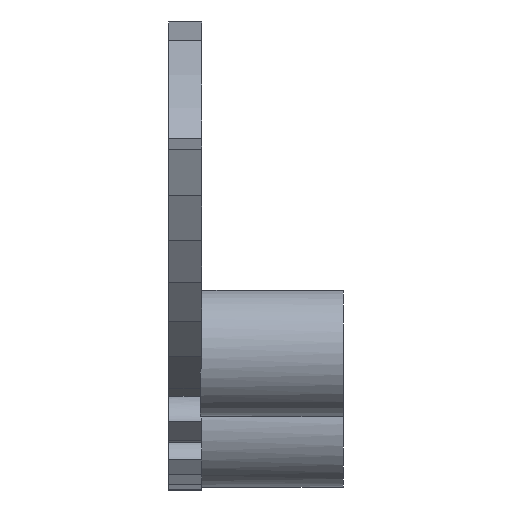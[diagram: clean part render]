
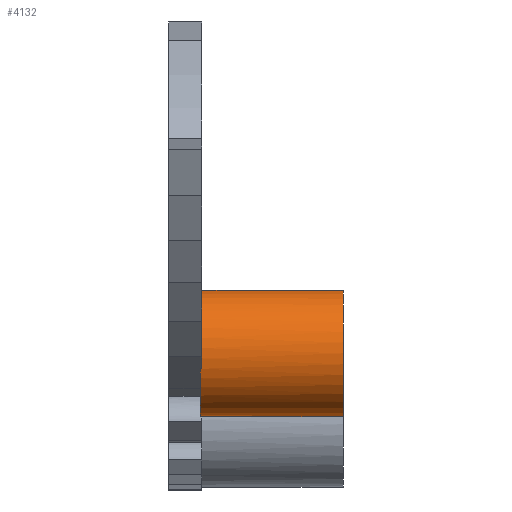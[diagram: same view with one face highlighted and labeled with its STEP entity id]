
A CAD part, front view. The second image highlights one B-rep face of the part: STEP entity #4132.
In plain terms, the highlighted cylindrical face has radius 3.8 mm (diameter 7.6 mm), a full revolution.
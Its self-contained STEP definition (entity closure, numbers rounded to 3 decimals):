
#100 = PLANE('',#101);
#101 = AXIS2_PLACEMENT_3D('',#102,#103,#104);
#102 = CARTESIAN_POINT('',(54.,-59.387,-74.279));
#103 = DIRECTION('',(1.,0.,0.));
#104 = DIRECTION('',(-0.,0.,1.));
#399 = PLANE('',#400);
#400 = AXIS2_PLACEMENT_3D('',#401,#402,#403);
#401 = CARTESIAN_POINT('',(52.,-71.097,-77.885));
#402 = DIRECTION('',(-0.,0.626,0.78));
#403 = DIRECTION('',(0.,0.78,-0.626));
#456 = CYLINDRICAL_SURFACE('',#457,1.7);
#457 = AXIS2_PLACEMENT_3D('',#458,#459,#460);
#458 = CARTESIAN_POINT('',(51.9,-66.32,-80.208));
#459 = DIRECTION('',(1.,0.,0.));
#460 = DIRECTION('',(-0.,0.,1.));
#1681 = VERTEX_POINT('',#1682);
#1682 = CARTESIAN_POINT('',(54.,-70.213,-78.594));
#1703 = EDGE_CURVE('',#1704,#1681,#1706,.T.);
#1704 = VERTEX_POINT('',#1705);
#1705 = CARTESIAN_POINT('',(54.,-66.526,-73.874));
#1706 = SURFACE_CURVE('',#1707,(#1712,#1719),.PCURVE_S1.);
#1707 = CIRCLE('',#1708,3.8);
#1708 = AXIS2_PLACEMENT_3D('',#1709,#1710,#1711);
#1709 = CARTESIAN_POINT('',(54.,-66.526,-77.674));
#1710 = DIRECTION('',(1.,0.,0.));
#1711 = DIRECTION('',(-0.,0.,1.));
#1712 = PCURVE('',#100,#1713);
#1713 = DEFINITIONAL_REPRESENTATION('',(#1714),#1718);
#1714 = CIRCLE('',#1715,3.8);
#1715 = AXIS2_PLACEMENT_2D('',#1716,#1717);
#1716 = CARTESIAN_POINT('',(-3.395,7.139));
#1717 = DIRECTION('',(1.,0.));
#1718 = ( GEOMETRIC_REPRESENTATION_CONTEXT(2) 
PARAMETRIC_REPRESENTATION_CONTEXT() REPRESENTATION_CONTEXT('2D SPACE',''
  ) );
#1719 = PCURVE('',#1720,#1725);
#1720 = CYLINDRICAL_SURFACE('',#1721,3.8);
#1721 = AXIS2_PLACEMENT_3D('',#1722,#1723,#1724);
#1722 = CARTESIAN_POINT('',(53.9,-66.526,-77.674));
#1723 = DIRECTION('',(1.,0.,0.));
#1724 = DIRECTION('',(-0.,0.,1.));
#1725 = DEFINITIONAL_REPRESENTATION('',(#1726),#1730);
#1726 = LINE('',#1727,#1728);
#1727 = CARTESIAN_POINT('',(0.,0.1));
#1728 = VECTOR('',#1729,1.);
#1729 = DIRECTION('',(1.,0.));
#1730 = ( GEOMETRIC_REPRESENTATION_CONTEXT(2) 
PARAMETRIC_REPRESENTATION_CONTEXT() REPRESENTATION_CONTEXT('2D SPACE',''
  ) );
#1732 = EDGE_CURVE('',#1733,#1704,#1735,.T.);
#1733 = VERTEX_POINT('',#1734);
#1734 = CARTESIAN_POINT('',(54.,-64.869,-81.093));
#1735 = SURFACE_CURVE('',#1736,(#1741,#1748),.PCURVE_S1.);
#1736 = CIRCLE('',#1737,3.8);
#1737 = AXIS2_PLACEMENT_3D('',#1738,#1739,#1740);
#1738 = CARTESIAN_POINT('',(54.,-66.526,-77.674));
#1739 = DIRECTION('',(1.,0.,0.));
#1740 = DIRECTION('',(-0.,0.,1.));
#1741 = PCURVE('',#100,#1742);
#1742 = DEFINITIONAL_REPRESENTATION('',(#1743),#1747);
#1743 = CIRCLE('',#1744,3.8);
#1744 = AXIS2_PLACEMENT_2D('',#1745,#1746);
#1745 = CARTESIAN_POINT('',(-3.395,7.139));
#1746 = DIRECTION('',(1.,0.));
#1747 = ( GEOMETRIC_REPRESENTATION_CONTEXT(2) 
PARAMETRIC_REPRESENTATION_CONTEXT() REPRESENTATION_CONTEXT('2D SPACE',''
  ) );
#1748 = PCURVE('',#1720,#1749);
#1749 = DEFINITIONAL_REPRESENTATION('',(#1750),#1754);
#1750 = LINE('',#1751,#1752);
#1751 = CARTESIAN_POINT('',(0.,0.1));
#1752 = VECTOR('',#1753,1.);
#1753 = DIRECTION('',(1.,0.));
#1754 = ( GEOMETRIC_REPRESENTATION_CONTEXT(2) 
PARAMETRIC_REPRESENTATION_CONTEXT() REPRESENTATION_CONTEXT('2D SPACE',''
  ) );
#2780 = EDGE_CURVE('',#2781,#1681,#2783,.T.);
#2781 = VERTEX_POINT('',#2782);
#2782 = CARTESIAN_POINT('',(53.9,-70.213,-78.594));
#2783 = SURFACE_CURVE('',#2784,(#2788,#2794),.PCURVE_S1.);
#2784 = LINE('',#2785,#2786);
#2785 = CARTESIAN_POINT('',(53.9,-70.213,-78.594));
#2786 = VECTOR('',#2787,1.);
#2787 = DIRECTION('',(1.,0.,0.));
#2788 = PCURVE('',#399,#2789);
#2789 = DEFINITIONAL_REPRESENTATION('',(#2790),#2793);
#2790 = B_SPLINE_CURVE_WITH_KNOTS('',1,(#2791,#2792),.UNSPECIFIED.,.F.,
  .F.,(2,2),(0.,0.3),.PIECEWISE_BEZIER_KNOTS.);
#2791 = CARTESIAN_POINT('',(1.132,-1.9));
#2792 = CARTESIAN_POINT('',(1.132,-2.2));
#2793 = ( GEOMETRIC_REPRESENTATION_CONTEXT(2) 
PARAMETRIC_REPRESENTATION_CONTEXT() REPRESENTATION_CONTEXT('2D SPACE',''
  ) );
#2794 = PCURVE('',#1720,#2795);
#2795 = DEFINITIONAL_REPRESENTATION('',(#2796),#2799);
#2796 = B_SPLINE_CURVE_WITH_KNOTS('',1,(#2797,#2798),.UNSPECIFIED.,.F.,
  .F.,(2,2),(0.,0.3),.PIECEWISE_BEZIER_KNOTS.);
#2797 = CARTESIAN_POINT('',(1.815,0.));
#2798 = CARTESIAN_POINT('',(1.815,0.3));
#2799 = ( GEOMETRIC_REPRESENTATION_CONTEXT(2) 
PARAMETRIC_REPRESENTATION_CONTEXT() REPRESENTATION_CONTEXT('2D SPACE',''
  ) );
#2816 = PLANE('',#2817);
#2817 = AXIS2_PLACEMENT_3D('',#2818,#2819,#2820);
#2818 = CARTESIAN_POINT('',(53.9,-66.526,-77.674));
#2819 = DIRECTION('',(1.,0.,0.));
#2820 = DIRECTION('',(-0.,0.,1.));
#2918 = VERTEX_POINT('',#2919);
#2919 = CARTESIAN_POINT('',(53.9,-64.869,-81.093));
#2941 = EDGE_CURVE('',#2918,#1733,#2942,.T.);
#2942 = SURFACE_CURVE('',#2943,(#2947,#2953),.PCURVE_S1.);
#2943 = LINE('',#2944,#2945);
#2944 = CARTESIAN_POINT('',(51.9,-64.869,-81.093));
#2945 = VECTOR('',#2946,1.);
#2946 = DIRECTION('',(1.,0.,0.));
#2947 = PCURVE('',#456,#2948);
#2948 = DEFINITIONAL_REPRESENTATION('',(#2949),#2952);
#2949 = B_SPLINE_CURVE_WITH_KNOTS('',1,(#2950,#2951),.UNSPECIFIED.,.F.,
  .F.,(2,2),(2.,2.1),.PIECEWISE_BEZIER_KNOTS.);
#2950 = CARTESIAN_POINT('',(4.165,2.));
#2951 = CARTESIAN_POINT('',(4.165,2.1));
#2952 = ( GEOMETRIC_REPRESENTATION_CONTEXT(2) 
PARAMETRIC_REPRESENTATION_CONTEXT() REPRESENTATION_CONTEXT('2D SPACE',''
  ) );
#2953 = PCURVE('',#1720,#2954);
#2954 = DEFINITIONAL_REPRESENTATION('',(#2955),#2958);
#2955 = B_SPLINE_CURVE_WITH_KNOTS('',1,(#2956,#2957),.UNSPECIFIED.,.F.,
  .F.,(2,2),(2.,2.1),.PIECEWISE_BEZIER_KNOTS.);
#2956 = CARTESIAN_POINT('',(3.593,0.));
#2957 = CARTESIAN_POINT('',(3.593,0.1));
#2958 = ( GEOMETRIC_REPRESENTATION_CONTEXT(2) 
PARAMETRIC_REPRESENTATION_CONTEXT() REPRESENTATION_CONTEXT('2D SPACE',''
  ) );
#4132 = ADVANCED_FACE('',(#4133),#1720,.T.);
#4133 = FACE_BOUND('',#4134,.T.);
#4134 = EDGE_LOOP('',(#4135,#4158,#4185,#4186,#4187,#4188,#4210,#4211));
#4135 = ORIENTED_EDGE('',*,*,#4136,.T.);
#4136 = EDGE_CURVE('',#1704,#4137,#4139,.T.);
#4137 = VERTEX_POINT('',#4138);
#4138 = CARTESIAN_POINT('',(62.5,-66.526,-73.874));
#4139 = SEAM_CURVE('',#4140,(#4144,#4151),.PCURVE_S1.);
#4140 = LINE('',#4141,#4142);
#4141 = CARTESIAN_POINT('',(53.9,-66.526,-73.874));
#4142 = VECTOR('',#4143,1.);
#4143 = DIRECTION('',(1.,0.,0.));
#4144 = PCURVE('',#1720,#4145);
#4145 = DEFINITIONAL_REPRESENTATION('',(#4146),#4150);
#4146 = LINE('',#4147,#4148);
#4147 = CARTESIAN_POINT('',(6.283,-0.));
#4148 = VECTOR('',#4149,1.);
#4149 = DIRECTION('',(0.,1.));
#4150 = ( GEOMETRIC_REPRESENTATION_CONTEXT(2) 
PARAMETRIC_REPRESENTATION_CONTEXT() REPRESENTATION_CONTEXT('2D SPACE',''
  ) );
#4151 = PCURVE('',#1720,#4152);
#4152 = DEFINITIONAL_REPRESENTATION('',(#4153),#4157);
#4153 = LINE('',#4154,#4155);
#4154 = CARTESIAN_POINT('',(0.,-0.));
#4155 = VECTOR('',#4156,1.);
#4156 = DIRECTION('',(0.,1.));
#4157 = ( GEOMETRIC_REPRESENTATION_CONTEXT(2) 
PARAMETRIC_REPRESENTATION_CONTEXT() REPRESENTATION_CONTEXT('2D SPACE',''
  ) );
#4158 = ORIENTED_EDGE('',*,*,#4159,.F.);
#4159 = EDGE_CURVE('',#4137,#4137,#4160,.T.);
#4160 = SURFACE_CURVE('',#4161,(#4166,#4173),.PCURVE_S1.);
#4161 = CIRCLE('',#4162,3.8);
#4162 = AXIS2_PLACEMENT_3D('',#4163,#4164,#4165);
#4163 = CARTESIAN_POINT('',(62.5,-66.526,-77.674));
#4164 = DIRECTION('',(1.,0.,0.));
#4165 = DIRECTION('',(-0.,0.,1.));
#4166 = PCURVE('',#1720,#4167);
#4167 = DEFINITIONAL_REPRESENTATION('',(#4168),#4172);
#4168 = LINE('',#4169,#4170);
#4169 = CARTESIAN_POINT('',(0.,8.6));
#4170 = VECTOR('',#4171,1.);
#4171 = DIRECTION('',(1.,0.));
#4172 = ( GEOMETRIC_REPRESENTATION_CONTEXT(2) 
PARAMETRIC_REPRESENTATION_CONTEXT() REPRESENTATION_CONTEXT('2D SPACE',''
  ) );
#4173 = PCURVE('',#4174,#4179);
#4174 = PLANE('',#4175);
#4175 = AXIS2_PLACEMENT_3D('',#4176,#4177,#4178);
#4176 = CARTESIAN_POINT('',(62.5,-66.526,-77.674));
#4177 = DIRECTION('',(1.,0.,0.));
#4178 = DIRECTION('',(-0.,0.,1.));
#4179 = DEFINITIONAL_REPRESENTATION('',(#4180),#4184);
#4180 = CIRCLE('',#4181,3.8);
#4181 = AXIS2_PLACEMENT_2D('',#4182,#4183);
#4182 = CARTESIAN_POINT('',(0.,0.));
#4183 = DIRECTION('',(1.,0.));
#4184 = ( GEOMETRIC_REPRESENTATION_CONTEXT(2) 
PARAMETRIC_REPRESENTATION_CONTEXT() REPRESENTATION_CONTEXT('2D SPACE',''
  ) );
#4185 = ORIENTED_EDGE('',*,*,#4136,.F.);
#4186 = ORIENTED_EDGE('',*,*,#1703,.T.);
#4187 = ORIENTED_EDGE('',*,*,#2780,.F.);
#4188 = ORIENTED_EDGE('',*,*,#4189,.T.);
#4189 = EDGE_CURVE('',#2781,#2918,#4190,.T.);
#4190 = SURFACE_CURVE('',#4191,(#4196,#4203),.PCURVE_S1.);
#4191 = CIRCLE('',#4192,3.8);
#4192 = AXIS2_PLACEMENT_3D('',#4193,#4194,#4195);
#4193 = CARTESIAN_POINT('',(53.9,-66.526,-77.674));
#4194 = DIRECTION('',(1.,0.,0.));
#4195 = DIRECTION('',(-0.,0.,1.));
#4196 = PCURVE('',#1720,#4197);
#4197 = DEFINITIONAL_REPRESENTATION('',(#4198),#4202);
#4198 = LINE('',#4199,#4200);
#4199 = CARTESIAN_POINT('',(0.,0.));
#4200 = VECTOR('',#4201,1.);
#4201 = DIRECTION('',(1.,0.));
#4202 = ( GEOMETRIC_REPRESENTATION_CONTEXT(2) 
PARAMETRIC_REPRESENTATION_CONTEXT() REPRESENTATION_CONTEXT('2D SPACE',''
  ) );
#4203 = PCURVE('',#2816,#4204);
#4204 = DEFINITIONAL_REPRESENTATION('',(#4205),#4209);
#4205 = CIRCLE('',#4206,3.8);
#4206 = AXIS2_PLACEMENT_2D('',#4207,#4208);
#4207 = CARTESIAN_POINT('',(0.,0.));
#4208 = DIRECTION('',(1.,0.));
#4209 = ( GEOMETRIC_REPRESENTATION_CONTEXT(2) 
PARAMETRIC_REPRESENTATION_CONTEXT() REPRESENTATION_CONTEXT('2D SPACE',''
  ) );
#4210 = ORIENTED_EDGE('',*,*,#2941,.T.);
#4211 = ORIENTED_EDGE('',*,*,#1732,.T.);
